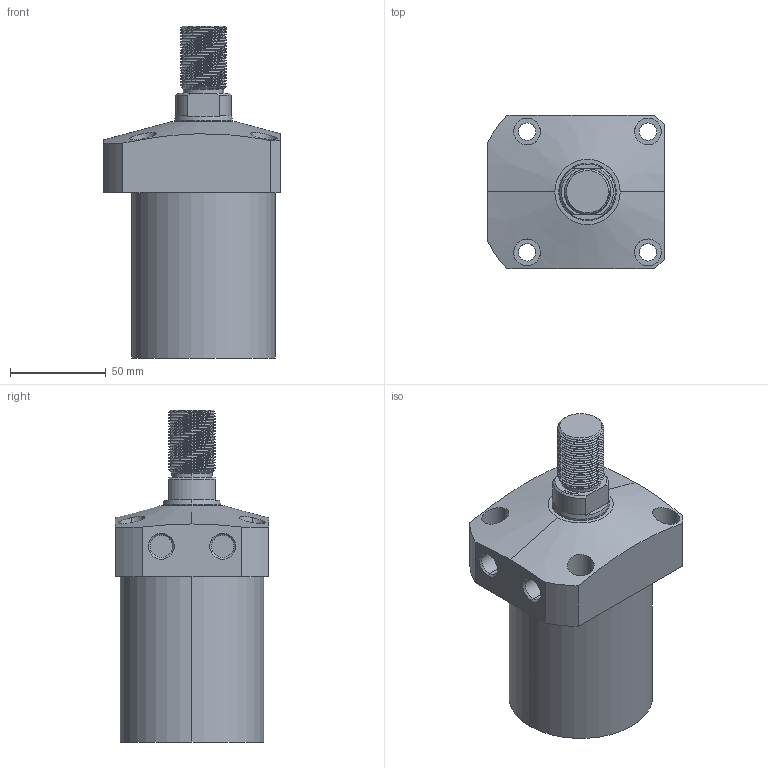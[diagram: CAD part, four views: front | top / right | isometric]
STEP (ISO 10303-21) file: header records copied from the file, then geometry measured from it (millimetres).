
FILE_DESCRIPTION (( 'STEP AP203' ), '1' );
FILE_NAME ('CLL-075CT-070.STEP', '2020-01-08T11:56:59', ( '' ), ( '' ), 'SwSTEP 2.0', 'SolidWorks 2015', '' );
FILE_SCHEMA (( 'CONFIG_CONTROL_DESIGN' ));
Length unit declared in the file: millimetre
Products named in the file (1): CLL-075CT-070
Bounding box: 92 x 80 x 173 mm (x, y, z)
Volume: 623137.6 mm3; surface area: 54634.9 mm2
Topology: 1 solids, 1 shells, 122 faces, 312 edges, 204 vertices
Faces by surface type: cylinder 77, plane 25, cone 16, bspline 4
Entity records: 7961 total; most frequent: CARTESIAN_POINT 5165, ORIENTED_EDGE 624, DIRECTION 511, EDGE_CURVE 312, VERTEX_POINT 204, AXIS2_PLACEMENT_3D 199, EDGE_LOOP 142, FACE_OUTER_BOUND 122
